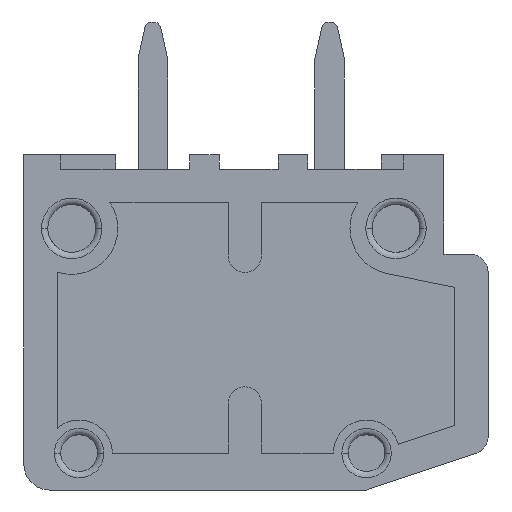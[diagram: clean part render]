
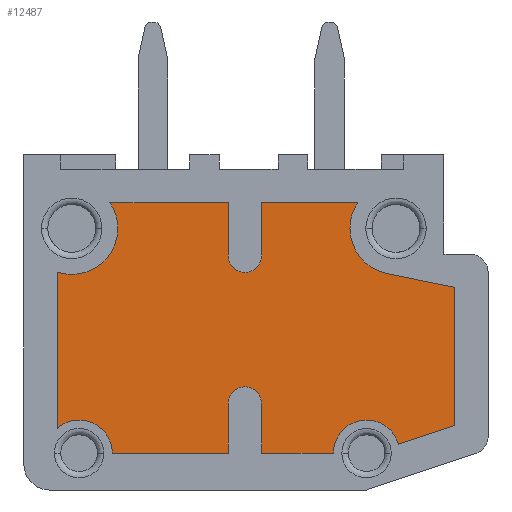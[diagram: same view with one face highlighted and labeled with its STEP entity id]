
A CAD part, front view. The second image highlights one B-rep face of the part: STEP entity #12487.
In plain terms, the highlighted planar face has unit normal (0, -1, 0).
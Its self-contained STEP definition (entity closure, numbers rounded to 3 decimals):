
#4240=DIRECTION('',(1.,0.,0.));
#4241=VECTOR('',#4240,1.95);
#4242=CARTESIAN_POINT('',(6.45,-24.9,-8.1));
#4243=LINE('',#4242,#4241);
#4244=DIRECTION('',(0.,0.,-1.));
#4245=VECTOR('',#4244,1.35);
#4246=CARTESIAN_POINT('',(6.45,-24.9,-6.75));
#4247=LINE('',#4246,#4245);
#4260=DIRECTION('',(0.,0.,1.));
#4261=VECTOR('',#4260,1.35);
#4262=CARTESIAN_POINT('',(5.55,-24.9,-8.1));
#4263=LINE('',#4262,#4261);
#4264=DIRECTION('',(1.,0.,0.));
#4265=VECTOR('',#4264,3.15);
#4266=CARTESIAN_POINT('',(2.4,-24.9,-8.1));
#4267=LINE('',#4266,#4265);
#4276=DIRECTION('',(0.,0.,-1.));
#4277=VECTOR('',#4276,4.245);
#4278=CARTESIAN_POINT('',(0.9,-24.9,-3.184));
#4279=LINE('',#4278,#4277);
#4292=DIRECTION('',(-1.,0.,0.));
#4293=VECTOR('',#4292,3.214);
#4294=CARTESIAN_POINT('',(5.55,-24.9,-1.3));
#4295=LINE('',#4294,#4293);
#4296=DIRECTION('',(0.,0.,1.));
#4297=VECTOR('',#4296,1.45);
#4298=CARTESIAN_POINT('',(5.55,-24.9,-2.75));
#4299=LINE('',#4298,#4297);
#4312=DIRECTION('',(0.,0.,-1.));
#4313=VECTOR('',#4312,1.45);
#4314=CARTESIAN_POINT('',(6.45,-24.9,-1.3));
#4315=LINE('',#4314,#4313);
#4316=DIRECTION('',(-1.,0.,0.));
#4317=VECTOR('',#4316,2.614);
#4318=CARTESIAN_POINT('',(9.064,-24.9,-1.3));
#4319=LINE('',#4318,#4317);
#4336=DIRECTION('',(0.,0.,1.));
#4337=VECTOR('',#4336,3.75);
#4338=CARTESIAN_POINT('',(11.7,-24.9,-7.35));
#4339=LINE('',#4338,#4337);
#4340=CARTESIAN_POINT('',(9.3,-24.9,-8.1));
#4341=DIRECTION('',(0.,-1.,0.));
#4342=DIRECTION('',(0.964,0.,0.266));
#4343=AXIS2_PLACEMENT_3D('',#4340,#4341,#4342);
#4345=CARTESIAN_POINT('',(6.,-24.9,-6.75));
#4346=DIRECTION('',(0.,-1.,0.));
#4347=DIRECTION('',(1.,0.,0.));
#4348=AXIS2_PLACEMENT_3D('',#4345,#4346,#4347);
#4350=CARTESIAN_POINT('',(1.5,-24.9,-8.1));
#4351=DIRECTION('',(0.,-1.,0.));
#4352=DIRECTION('',(1.,0.,0.));
#4353=AXIS2_PLACEMENT_3D('',#4350,#4351,#4352);
#4355=CARTESIAN_POINT('',(1.3,-24.9,-2.));
#4356=DIRECTION('',(0.,-1.,0.));
#4357=DIRECTION('',(-0.32,0.,-0.947));
#4358=AXIS2_PLACEMENT_3D('',#4355,#4356,#4357);
#4360=CARTESIAN_POINT('',(1.3,-24.9,-2.));
#4361=DIRECTION('',(0.,-1.,0.));
#4362=DIRECTION('',(1.,0.,0.));
#4363=AXIS2_PLACEMENT_3D('',#4360,#4361,#4362);
#4365=CARTESIAN_POINT('',(6.,-24.9,-2.75));
#4366=DIRECTION('',(0.,-1.,0.));
#4367=DIRECTION('',(-1.,0.,0.));
#4368=AXIS2_PLACEMENT_3D('',#4365,#4366,#4367);
#4370=CARTESIAN_POINT('',(10.1,-24.9,-2.));
#4371=DIRECTION('',(0.,-1.,0.));
#4372=DIRECTION('',(-0.828,0.,0.56));
#4373=AXIS2_PLACEMENT_3D('',#4370,#4371,#4372);
#4375=CARTESIAN_POINT('',(10.1,-24.9,-2.));
#4376=DIRECTION('',(0.,-1.,0.));
#4377=DIRECTION('',(-1.,0.,0.));
#4378=AXIS2_PLACEMENT_3D('',#4375,#4376,#4377);
#4380=DIRECTION('',(0.98,0.,-0.199));
#4381=VECTOR('',#4380,1.886);
#4382=CARTESIAN_POINT('',(9.852,-24.9,-3.225));
#4383=LINE('',#4382,#4381);
#4384=DIRECTION('',(-0.949,0.,-0.316));
#4385=VECTOR('',#4384,1.615);
#4386=CARTESIAN_POINT('',(11.7,-24.9,-7.35));
#4387=LINE('',#4386,#4385);
#4912=CARTESIAN_POINT('',(11.7,-24.9,-7.35));
#4913=VERTEX_POINT('',#4912);
#4914=CARTESIAN_POINT('',(11.7,-24.9,-3.6));
#4915=VERTEX_POINT('',#4914);
#6030=CARTESIAN_POINT('',(8.4,-24.9,-8.1));
#6031=VERTEX_POINT('',#6030);
#6032=CARTESIAN_POINT('',(10.168,-24.9,-7.861));
#6033=VERTEX_POINT('',#6032);
#6034=CARTESIAN_POINT('',(6.45,-24.9,-8.1));
#6035=VERTEX_POINT('',#6034);
#6036=CARTESIAN_POINT('',(6.45,-24.9,-6.75));
#6037=VERTEX_POINT('',#6036);
#6038=CARTESIAN_POINT('',(5.55,-24.9,-6.75));
#6039=VERTEX_POINT('',#6038);
#6040=CARTESIAN_POINT('',(5.55,-24.9,-8.1));
#6041=VERTEX_POINT('',#6040);
#6042=CARTESIAN_POINT('',(2.4,-24.9,-8.1));
#6043=VERTEX_POINT('',#6042);
#6044=CARTESIAN_POINT('',(0.9,-24.9,-7.429));
#6045=VERTEX_POINT('',#6044);
#6046=CARTESIAN_POINT('',(0.9,-24.9,-3.184));
#6047=VERTEX_POINT('',#6046);
#6048=CARTESIAN_POINT('',(2.336,-24.9,-1.3));
#6049=VERTEX_POINT('',#6048);
#6050=CARTESIAN_POINT('',(2.55,-24.9,-2.));
#6051=VERTEX_POINT('',#6050);
#6052=CARTESIAN_POINT('',(5.55,-24.9,-1.3));
#6053=VERTEX_POINT('',#6052);
#6054=CARTESIAN_POINT('',(5.55,-24.9,-2.75));
#6055=VERTEX_POINT('',#6054);
#6056=CARTESIAN_POINT('',(6.45,-24.9,-2.75));
#6057=VERTEX_POINT('',#6056);
#6058=CARTESIAN_POINT('',(6.45,-24.9,-1.3));
#6059=VERTEX_POINT('',#6058);
#6060=CARTESIAN_POINT('',(9.064,-24.9,-1.3));
#6061=VERTEX_POINT('',#6060);
#6062=CARTESIAN_POINT('',(9.852,-24.9,-3.225));
#6063=VERTEX_POINT('',#6062);
#6064=CARTESIAN_POINT('',(8.85,-24.9,-2.));
#6065=VERTEX_POINT('',#6064);
#12460=CARTESIAN_POINT('',(6.3,-24.9,-4.7));
#12461=DIRECTION('',(0.,1.,0.));
#12462=DIRECTION('',(-1.,0.,0.));
#12463=AXIS2_PLACEMENT_3D('',#12460,#12461,#12462);
#12464=PLANE('',#12463);
#12465=ORIENTED_EDGE('',*,*,#12210,.T.);
#12466=ORIENTED_EDGE('',*,*,#12225,.F.);
#12467=ORIENTED_EDGE('',*,*,#12239,.F.);
#12468=ORIENTED_EDGE('',*,*,#12253,.T.);
#12469=ORIENTED_EDGE('',*,*,#12267,.F.);
#12470=ORIENTED_EDGE('',*,*,#12281,.F.);
#12471=ORIENTED_EDGE('',*,*,#12295,.T.);
#12472=ORIENTED_EDGE('',*,*,#12309,.F.);
#12473=ORIENTED_EDGE('',*,*,#12326,.T.);
#12474=ORIENTED_EDGE('',*,*,#12324,.T.);
#12475=ORIENTED_EDGE('',*,*,#12340,.F.);
#12476=ORIENTED_EDGE('',*,*,#12354,.F.);
#12477=ORIENTED_EDGE('',*,*,#12368,.T.);
#12478=ORIENTED_EDGE('',*,*,#12382,.F.);
#12479=ORIENTED_EDGE('',*,*,#12396,.F.);
#12480=ORIENTED_EDGE('',*,*,#12413,.T.);
#12481=ORIENTED_EDGE('',*,*,#12411,.T.);
#12482=ORIENTED_EDGE('',*,*,#12427,.T.);
#12483=ORIENTED_EDGE('',*,*,#12441,.F.);
#12484=ORIENTED_EDGE('',*,*,#12454,.T.);
#12485=EDGE_LOOP('',(#12465,#12466,#12467,#12468,#12469,#12470,#12471,#12472,
#12473,#12474,#12475,#12476,#12477,#12478,#12479,#12480,#12481,#12482,#12483,
#12484));
#12486=FACE_OUTER_BOUND('',#12485,.F.);
#12487=ADVANCED_FACE('',(#12486),#12464,.F.);
#4344=CIRCLE('',#4343,0.9);
#4349=CIRCLE('',#4348,0.45);
#4354=CIRCLE('',#4353,0.9);
#4359=CIRCLE('',#4358,1.25);
#4364=CIRCLE('',#4363,1.25);
#4369=CIRCLE('',#4368,0.45);
#4374=CIRCLE('',#4373,1.25);
#4379=CIRCLE('',#4378,1.25);
#12210=EDGE_CURVE('',#6033,#6031,#4344,.T.);
#12225=EDGE_CURVE('',#6035,#6031,#4243,.T.);
#12239=EDGE_CURVE('',#6037,#6035,#4247,.T.);
#12253=EDGE_CURVE('',#6037,#6039,#4349,.T.);
#12267=EDGE_CURVE('',#6041,#6039,#4263,.T.);
#12281=EDGE_CURVE('',#6043,#6041,#4267,.T.);
#12295=EDGE_CURVE('',#6043,#6045,#4354,.T.);
#12309=EDGE_CURVE('',#6047,#6045,#4279,.T.);
#12324=EDGE_CURVE('',#6051,#6049,#4364,.T.);
#12326=EDGE_CURVE('',#6047,#6051,#4359,.T.);
#12340=EDGE_CURVE('',#6053,#6049,#4295,.T.);
#12354=EDGE_CURVE('',#6055,#6053,#4299,.T.);
#12368=EDGE_CURVE('',#6055,#6057,#4369,.T.);
#12382=EDGE_CURVE('',#6059,#6057,#4315,.T.);
#12396=EDGE_CURVE('',#6061,#6059,#4319,.T.);
#12411=EDGE_CURVE('',#6065,#6063,#4379,.T.);
#12413=EDGE_CURVE('',#6061,#6065,#4374,.T.);
#12427=EDGE_CURVE('',#6063,#4915,#4383,.T.);
#12441=EDGE_CURVE('',#4913,#4915,#4339,.T.);
#12454=EDGE_CURVE('',#4913,#6033,#4387,.T.);
